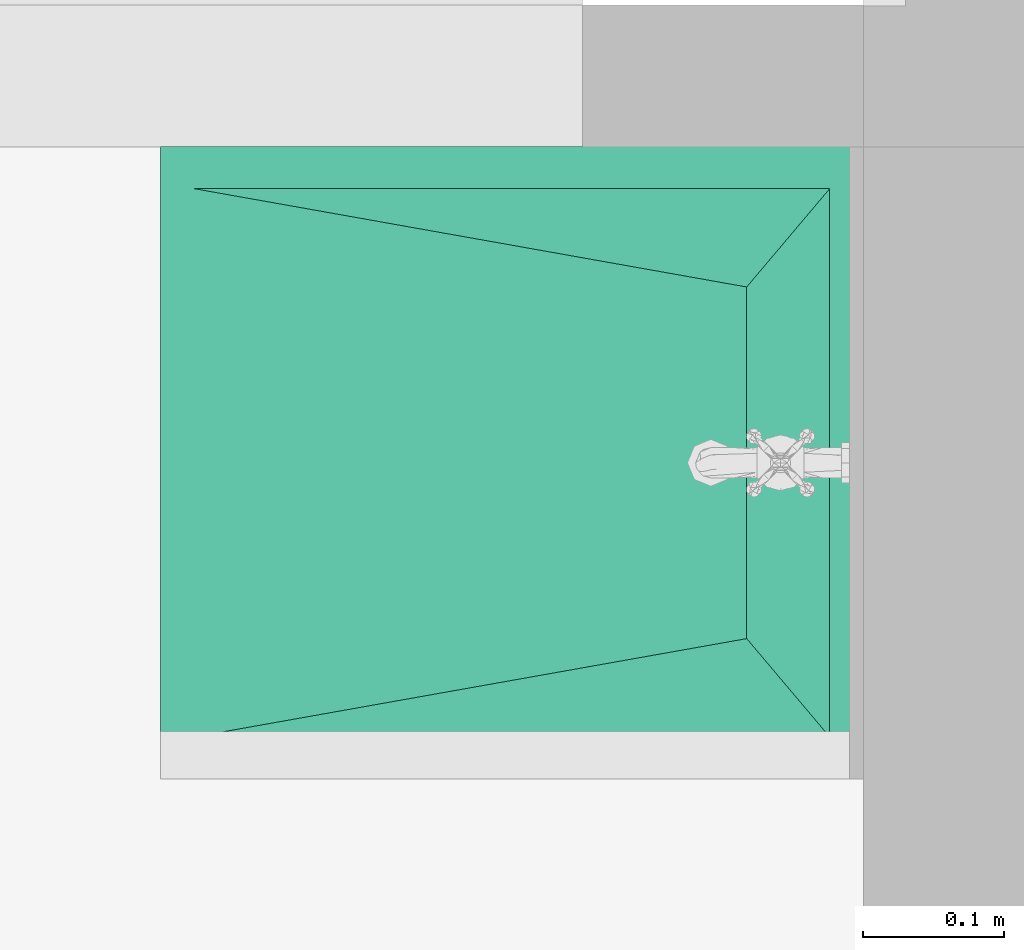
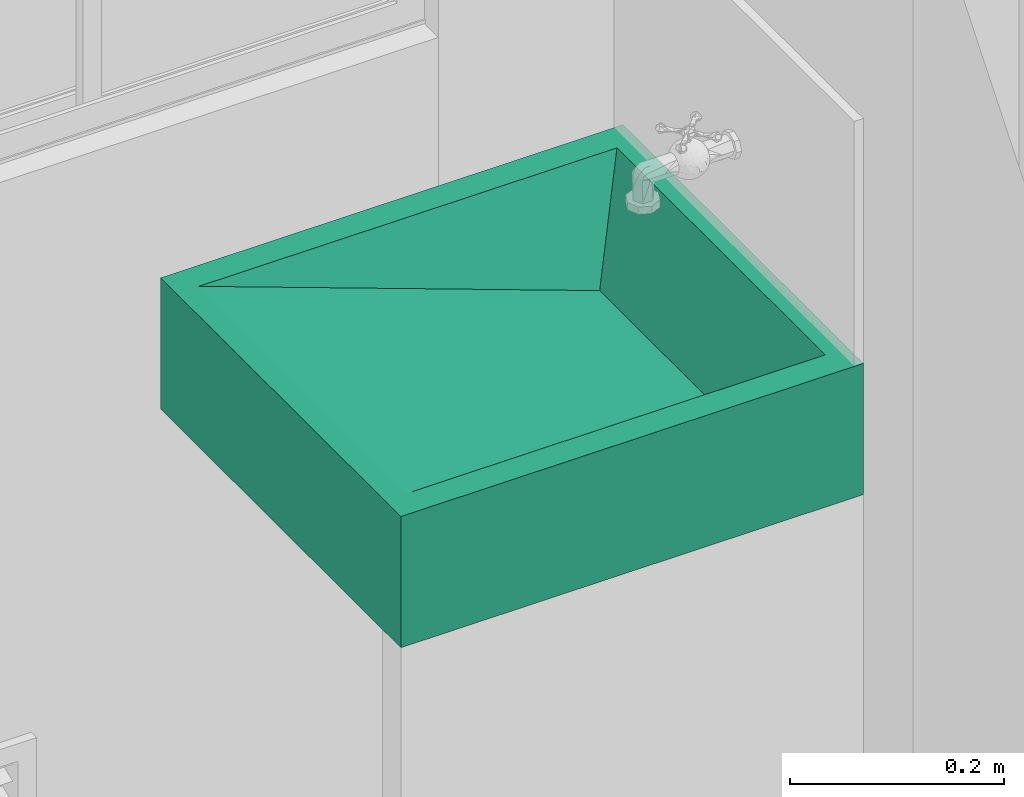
# One storey, part 40 of 48: 1 flow terminal.
"""IFC4 building model written with IfcOpenShell, lengths in metres."""

from ifc_helpers import new_model, entity, si_unit, converted_unit, derived_unit, direction, frame, origin, place, context, subcontext, project, spatial, polygons, source, transform, mapped, material, type_object, type_shapes, element, save


model = new_model("IFC4")

# Units and contexts
model_context = context("Model", 3, precision=1e-05, world=origin(), true_north=direction((6.123031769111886e-17, 1.0)))
body_context = subcontext(model_context, "Body", "Model", "MODEL_VIEW")
ifc_project = project(units=[si_unit("LENGTHUNIT", "METRE"), si_unit("AREAUNIT", "SQUARE_METRE"), si_unit("VOLUMEUNIT", "CUBIC_METRE"), converted_unit("PLANEANGLEUNIT", "DEGREE", entity("IfcRatioMeasure", 0.017453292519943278), si_unit("PLANEANGLEUNIT", "RADIAN"), dimensions=[0, 0, 0, 0, 0, 0, 0]), si_unit("MASSUNIT", "GRAM", prefix="KILO"), derived_unit("MASSDENSITYUNIT", [(si_unit("MASSUNIT", "GRAM", prefix="KILO"), 1), (si_unit("LENGTHUNIT", "METRE"), -3)]), derived_unit("IONCONCENTRATIONUNIT", [(si_unit("MASSUNIT", "GRAM", prefix="KILO"), 1), (si_unit("LENGTHUNIT", "METRE"), -3)]), derived_unit("MOMENTOFINERTIAUNIT", [(si_unit("LENGTHUNIT", "METRE"), 4)]), si_unit("TIMEUNIT", "SECOND"), si_unit("FREQUENCYUNIT", "HERTZ"), si_unit("THERMODYNAMICTEMPERATUREUNIT", "DEGREE_CELSIUS"), derived_unit("THERMALTRANSMITTANCEUNIT", [(si_unit("MASSUNIT", "GRAM", prefix="KILO"), 1), (si_unit("THERMODYNAMICTEMPERATUREUNIT", "KELVIN"), -1), (si_unit("TIMEUNIT", "SECOND"), -3)]), derived_unit("THERMALCONDUCTANCEUNIT", [(si_unit("MASSUNIT", "GRAM", prefix="KILO"), 1), (si_unit("THERMODYNAMICTEMPERATUREUNIT", "KELVIN"), -1), (si_unit("TIMEUNIT", "SECOND"), -3), (si_unit("LENGTHUNIT", "METRE"), 1)]), derived_unit("VOLUMETRICFLOWRATEUNIT", [(si_unit("LENGTHUNIT", "METRE"), 3), (si_unit("TIMEUNIT", "SECOND"), -1)]), derived_unit("MASSFLOWRATEUNIT", [(si_unit("MASSUNIT", "GRAM", prefix="KILO"), 1), (si_unit("TIMEUNIT", "SECOND"), -1)]), derived_unit("ROTATIONALFREQUENCYUNIT", [(si_unit("TIMEUNIT", "SECOND"), -1)]), si_unit("ELECTRICCURRENTUNIT", "AMPERE"), si_unit("ELECTRICVOLTAGEUNIT", "VOLT"), si_unit("POWERUNIT", "WATT"), si_unit("FORCEUNIT", "NEWTON", prefix="KILO"), si_unit("ILLUMINANCEUNIT", "LUX"), si_unit("LUMINOUSFLUXUNIT", "LUMEN"), si_unit("LUMINOUSINTENSITYUNIT", "CANDELA"), derived_unit("USERDEFINED", [(si_unit("MASSUNIT", "GRAM", prefix="KILO"), -1), (si_unit("LENGTHUNIT", "METRE"), -2), (si_unit("TIMEUNIT", "SECOND"), 3), (si_unit("LUMINOUSFLUXUNIT", "LUMEN"), 1)]), derived_unit("USERDEFINED", [(si_unit("MASSUNIT", "GRAM", prefix="KILO"), 1), (si_unit("TIMEUNIT", "SECOND"), -3), (si_unit("LENGTHUNIT", "METRE"), 3), (si_unit("ELECTRICCURRENTUNIT", "AMPERE"), -2)]), derived_unit("SOUNDPOWERUNIT", [(si_unit("MASSUNIT", "GRAM", prefix="KILO"), 1), (si_unit("TIMEUNIT", "SECOND"), -3), (si_unit("LENGTHUNIT", "METRE"), 2)]), derived_unit("SOUNDPRESSUREUNIT", [(si_unit("MASSUNIT", "GRAM", prefix="KILO"), 1), (si_unit("LENGTHUNIT", "METRE"), -1), (si_unit("TIMEUNIT", "SECOND"), -2)]), derived_unit("LINEARVELOCITYUNIT", [(si_unit("LENGTHUNIT", "METRE"), 1), (si_unit("TIMEUNIT", "SECOND"), -1)]), si_unit("PRESSUREUNIT", "PASCAL"), derived_unit("USERDEFINED", [(si_unit("MASSUNIT", "GRAM", prefix="KILO"), 1), (si_unit("LENGTHUNIT", "METRE"), -2), (si_unit("TIMEUNIT", "SECOND"), -2)]), derived_unit("LINEARFORCEUNIT", [(si_unit("MASSUNIT", "GRAM", prefix="KILO"), 1), (si_unit("TIMEUNIT", "SECOND"), -2)]), derived_unit("PLANARFORCEUNIT", [(si_unit("MASSUNIT", "GRAM", prefix="KILO"), 1), (si_unit("LENGTHUNIT", "METRE"), -1), (si_unit("TIMEUNIT", "SECOND"), -2)]), derived_unit("SPECIFICHEATCAPACITYUNIT", [(si_unit("THERMODYNAMICTEMPERATUREUNIT", "KELVIN"), -1), (si_unit("LENGTHUNIT", "METRE"), 2), (si_unit("TIMEUNIT", "SECOND"), -2)]), derived_unit("HEATINGVALUEUNIT", [(si_unit("LENGTHUNIT", "METRE"), 2), (si_unit("TIMEUNIT", "SECOND"), -2)]), derived_unit("VAPORPERMEABILITYUNIT", [(si_unit("LENGTHUNIT", "METRE"), -1), (si_unit("TIMEUNIT", "SECOND"), 1)]), derived_unit("DYNAMICVISCOSITYUNIT", [(si_unit("MASSUNIT", "GRAM", prefix="KILO"), 1), (si_unit("TIMEUNIT", "SECOND"), -1), (si_unit("LENGTHUNIT", "METRE"), -1)]), derived_unit("THERMALEXPANSIONCOEFFICIENTUNIT", [(si_unit("THERMODYNAMICTEMPERATUREUNIT", "KELVIN"), -1)]), derived_unit("MODULUSOFELASTICITYUNIT", [(si_unit("MASSUNIT", "GRAM", prefix="KILO"), 1), (si_unit("LENGTHUNIT", "METRE"), -1), (si_unit("TIMEUNIT", "SECOND"), -2)]), derived_unit("ISOTHERMALMOISTURECAPACITYUNIT", [(si_unit("LENGTHUNIT", "METRE"), 3), (si_unit("MASSUNIT", "GRAM", prefix="KILO"), -1)]), derived_unit("MOISTUREDIFFUSIVITYUNIT", [(si_unit("TIMEUNIT", "SECOND"), -1), (si_unit("LENGTHUNIT", "METRE"), 2)])], contexts=[model_context])

# Site, building, storey, space
site_placement = place(None, origin())
site = spatial("IfcSite", under=ifc_project, at=site_placement, Name="Default", CompositionType="ELEMENT")
building_placement = place(site_placement, origin())
building = spatial("IfcBuilding", under=site, at=building_placement, CompositionType="ELEMENT")
storey_placement = place(building_placement, frame((0.0, 0.0, 7.050000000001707)))
storey = spatial("IfcBuildingStorey", under=building, at=storey_placement, Name="Nivel 4", CompositionType="ELEMENT", Elevation=7.050000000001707)
space_placement = place(storey_placement, origin())
space = spatial("IfcSpace", under=storey, at=space_placement, Name="227", CompositionType="ELEMENT", PredefinedType="SPACE")

# Flow terminal
ifc_material = material(Name="Lavadero", Category="Materials")
distribution_element_type = type_object("IfcDistributionElementType", Name="D2010 - Lavadero - Granito:D2010 - Lavadero - Concreto", material=ifc_material)
shared_shape = source(origin(), body_context, "Body", "Tessellation", [
    polygons([(0.03000000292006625, 0.47600086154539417, 0.15000000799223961), (0.02999997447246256, 0.024000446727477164, 0.15000000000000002), (0.09992663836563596, 0.08303011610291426, 0.05000015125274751), (0.4199999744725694, 0.024000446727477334, 0.15000000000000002), (0.3500731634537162, 0.08303019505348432, 0.050000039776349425), (0.4199999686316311, 0.4760007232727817, 0.15000001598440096), (0.4499999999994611, 0.5000004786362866, 0.0), (0.4499999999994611, 0.5000004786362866, 0.15000000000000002), (0.4499999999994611, 3.383959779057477e-17, 0.15000000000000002), (0.4499999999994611, 3.383959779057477e-17, 0.0), (6.767919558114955e-17, 0.5000004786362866, 0.0), (6.767919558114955e-17, 0.5000004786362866, 0.15000000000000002), (6.767919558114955e-17, 3.383959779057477e-17, 0.0), (6.767919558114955e-17, 3.383959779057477e-17, 0.15000000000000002), (0.4199999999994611, 0.4800004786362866, 0.0), (0.030000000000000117, 0.4800004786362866, 0.0), (0.030000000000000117, 0.019999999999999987, 0.0), (0.4199999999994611, 0.019999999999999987, 0.0), (0.4199999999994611, 0.4800004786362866, 0.034883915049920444), (0.4199999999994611, 0.019999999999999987, 0.034883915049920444), (0.030000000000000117, 0.4800004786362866, 0.034883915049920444), (0.030000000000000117, 0.019999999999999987, 0.034883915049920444)], [[[1, 2, 3]], [[2, 4, 5, 3]], [[4, 6, 5]], [[3, 5, 6, 1]], [[7, 8, 9, 10]], [[7, 11, 12, 8]], [[11, 13, 14, 12]], [[9, 14, 13, 10]], [[10, 13, 11, 7], [15, 16, 17, 18]], [[8, 12, 14, 9], [1, 6, 4, 2]], [[19, 15, 18, 20]], [[21, 16, 15, 19]], [[22, 17, 16, 21]], [[20, 18, 17, 22]], [[20, 22, 21, 19]]], closed=True),
])
type_shapes(distribution_element_type, [shared_shape])
flow_terminal_placement = place(space_placement, frame((14.557500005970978, -8.175000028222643, 0.7799999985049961), z_axis=(0.0, 0.0, 1.0), x_axis=(0.0, 1.0, 0.0)))
element("IfcFlowTerminal", 1, at=flow_terminal_placement, inside=space, type_object=distribution_element_type, material=ifc_material, Name="D2010 - Lavadero - Granito:D2010 - Lavadero - Concreto", ObjectType="D2010 - Lavadero - Granito:D2010 - Lavadero - Concreto", context=body_context, shape_type="MappedRepresentation", body=[
    mapped(shared_shape, transform((0.0, 0.0, 0.0), scale=1.0)),
])

save(model, "model.ifc")
